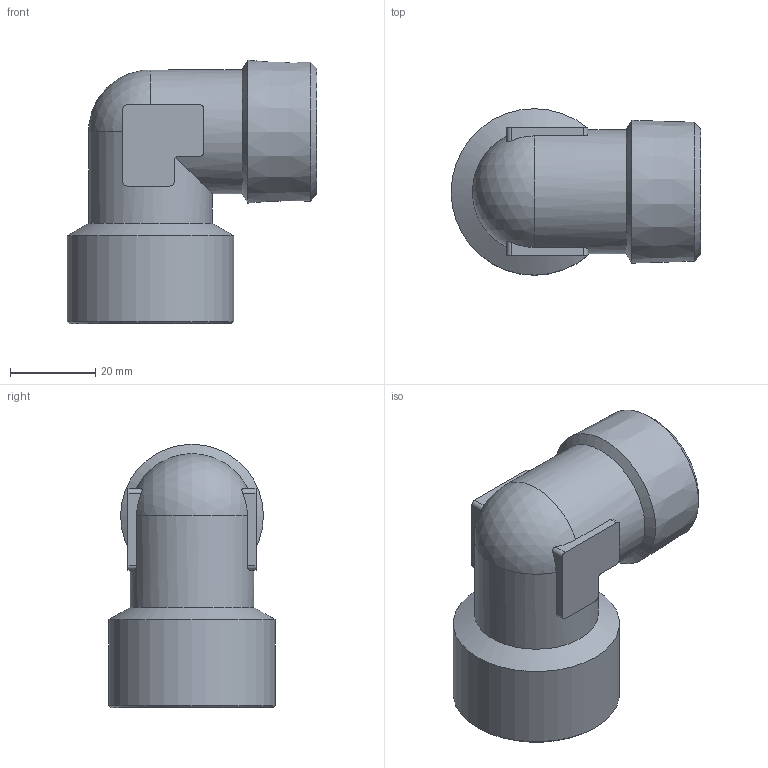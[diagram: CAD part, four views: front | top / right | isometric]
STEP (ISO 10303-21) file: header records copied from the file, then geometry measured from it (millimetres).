
FILE_DESCRIPTION(/* description */ (''),/* implementation_level */ '2;1');
FILE_NAME(/* name */ '50207_110_R1_G1_27.09.16',/* time_stamp */ '2016-09-27T08:40:38+02:00',/* author */ (''),/* organization */ (''),/* preprocessor_version */ 'ST-DEVELOPER v16.5',/* originating_system */ 'HiCAD 2016 2101.0 Build 254',/* authorisation */ '');
FILE_SCHEMA (('AUTOMOTIVE_DESIGN { 1 0 10303 214 1 1 1 1 }'));
Length unit declared in the file: millimetre
Products named in the file (2): Root; ROTATIONSTEIL_1
Assembly tree (1 placements, depth 2):
  Root
    ROTATIONSTEIL_1
Bounding box: 58.5 x 39 x 61.73 mm (x, y, z)
Volume: 27023.6 mm3; surface area: 16470.9 mm2
Topology: 1 solids, 1 shells, 55 faces, 143 edges, 91 vertices
Faces by surface type: cylinder 23, plane 17, cone 14, sphere 1
Full cylindrical faces by diameter (mm): 24 x2, 29 x2, 30.291 x1, 30.3 x1, 39 x1
Entity records: 4847 total; most frequent: CARTESIAN_POINT 2372, DIRECTION 262, PRESENTATION_STYLE_ASSIGNMENT 245, OVER_RIDING_STYLED_ITEM 244, COLOUR_RGB 244, DRAUGHTING_PRE_DEFINED_CURVE_FONT 242, CURVE_STYLE 242, ORIENTED_EDGE 242
